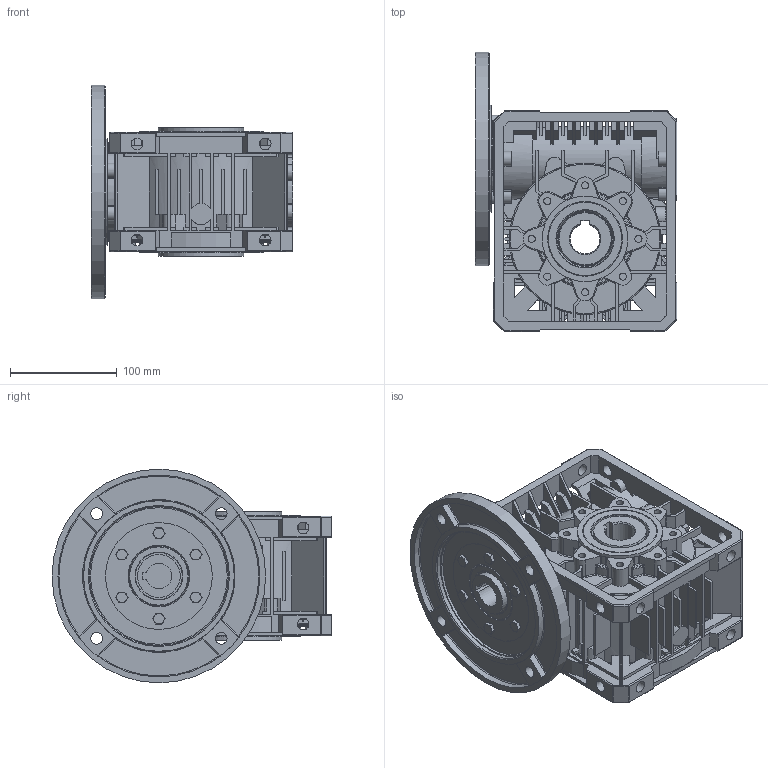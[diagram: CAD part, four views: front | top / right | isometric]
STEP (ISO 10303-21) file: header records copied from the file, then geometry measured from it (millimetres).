
FILE_DESCRIPTION((''),'2;1');
FILE_NAME('C:\Users\m.piscopiello.SITIRIDUTTORI\Desktop\FIGURINI VSF\FIGURINI U-MU 75\MU 75 PAM 90 B5.stp','2016-03-03T16:47:48',('m.piscopiello'),(''),'Autodesk Inventor 2012','Autodesk Inventor 2012','');
FILE_SCHEMA(('CONFIG_CONTROL_DESIGN'));
Length unit declared in the file: millimetre
Products named in the file (1): 3F021115
Bounding box: 189 x 262 x 200 mm (x, y, z)
Volume: 1400052.2 mm3; surface area: 527147.4 mm2
Topology: 29 solids, 29 shells, 2213 faces, 5807 edges, 3539 vertices
Faces by surface type: plane 1097, cylinder 605, torus 233, sphere 105, bspline 95, cone 78
Full cylindrical faces by diameter (mm): 4.917 x12, 6 x12, 6.5 x6, 6.647 x22, 8 x16, 8.5 x8, 11 x18, 13 x8, 40 x2, 43.75 x1, 50 x3, 53.75 x2, 54 x1, 55.438 x2, 56 x2, 58.875 x1, 62 x2, 65.4 x1, 66.6 x2, 68 x2, 70 x4, 80 x3, 100 x2, 128 x1, 130 x1, 134 x1, 141 x1, 189 x1, 200 x1
Entity records: 68562 total; most frequent: CARTESIAN_POINT 15150, DIRECTION 11309, ORIENTED_EDGE 10842, EDGE_CURVE 5421, AXIS2_PLACEMENT_3D 4134, VERTEX_POINT 3424, VECTOR 3041, LINE 3041
